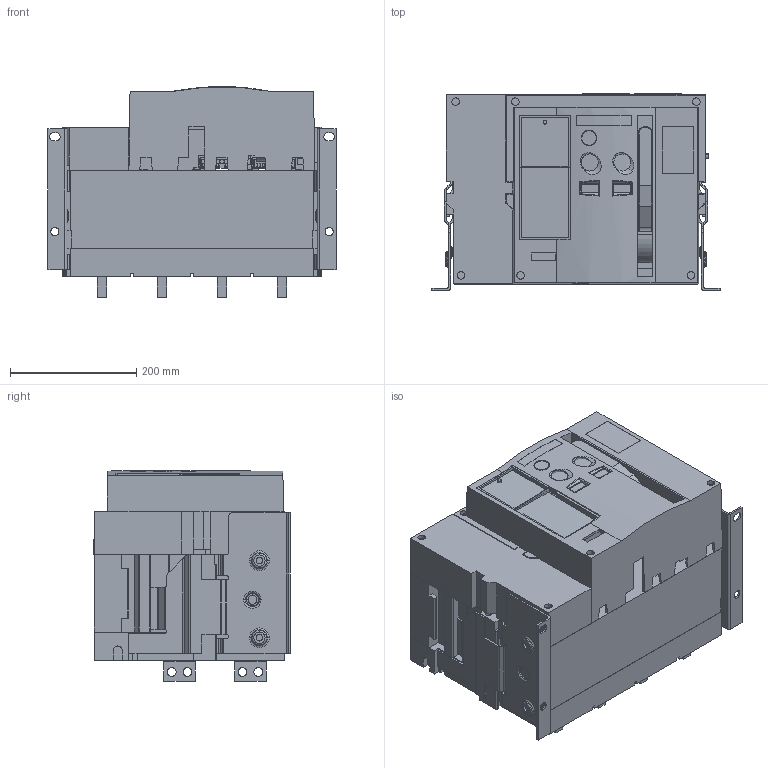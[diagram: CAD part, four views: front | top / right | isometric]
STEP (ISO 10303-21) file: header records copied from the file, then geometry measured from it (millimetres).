
FILE_DESCRIPTION(('CAx-IF Rec.Pracs.---Model Styling and Organization---1.2---2011-12-15','CAx-IF Rec.Pracs.---Geometric and Assembly Validation Properties---4.1---2014-06-16','CAx-IF Rec.Pracs.---PMI Polyline Presentation---2.0---2013-05-24'),'2;1');
FILE_NAME('YON AD-2000-S2-F 4P.stp','2021-07-13T11:21:27+03:00',(''),(''),'STEP Interface 4.4 by CT CoreTechnologie','3D_Evolution4.4 by CT CoreTechnologie','');
FILE_SCHEMA(('AUTOMOTIVE_DESIGN { 1 0 10303 214 1 1 1 1 }'));
Length unit declared in the file: millimetre
Products named in the file (1): YON AD-2000-S2-F 4P
Bounding box: 456 x 311.3 x 333.36 mm (x, y, z)
Surface area: 1959238.7 mm2 (no closed solid volume)
Topology: 0 solids, 27 shells, 2455 faces, 6921 edges, 4588 vertices
Faces by surface type: plane 1512, cylinder 735, bspline 208
Entity records: 160949 total; most frequent: CARTESIAN_POINT 20292, ORIENTED_EDGE 13830, DIRECTION 13217, PROPERTY_DEFINITION 10177, EDGE_CURVE 6915, REPRESENTATION 5097, GENERAL_PROPERTY 5097, PROPERTY_DEFINITION_REPRESENTATION 5097
